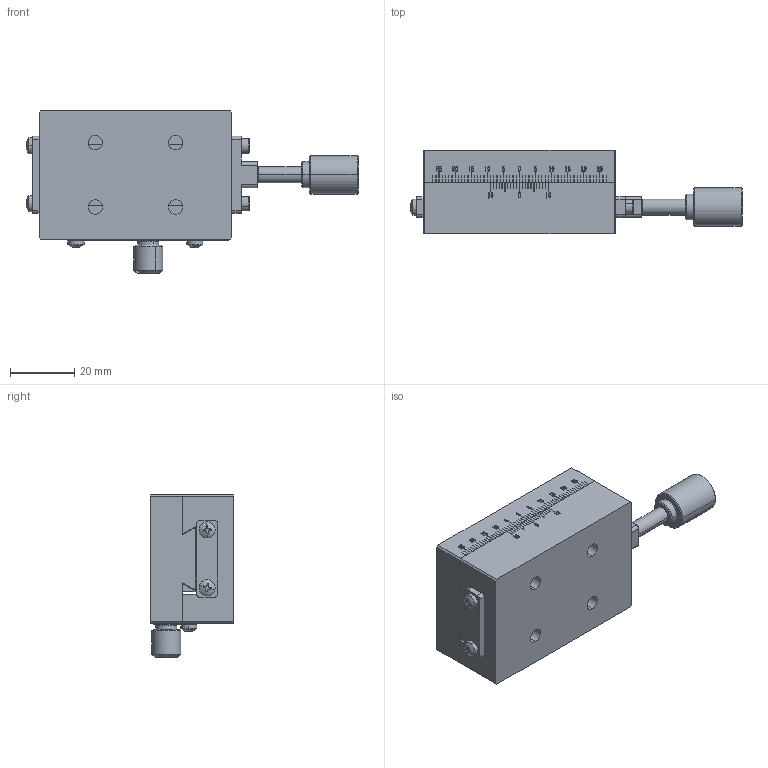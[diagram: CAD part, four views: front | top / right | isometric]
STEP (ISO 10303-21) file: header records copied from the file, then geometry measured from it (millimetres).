
FILE_DESCRIPTION (( 'STEP AP203' ), '1' );
FILE_NAME ('BLS60.STEP', '2024-02-26T05:45:54', ( 'China' ), ( 'Microsoft' ), 'SwSTEP 2.0', 'SolidWorks 2024', '' );
FILE_SCHEMA (( 'CONFIG_CONTROL_DESIGN' ));
Length unit declared in the file: millimetre
Products named in the file (1): BLS60
Bounding box: 103.37 x 26 x 50.7 mm (x, y, z)
Volume: 60400.7 mm3; surface area: 25617.5 mm2
Topology: 16 solids, 16 shells, 1339 faces, 3670 edges, 2388 vertices
Faces by surface type: plane 785, bspline 236, cylinder 226, cone 76, sphere 8, torus 8
Entity records: 54622 total; most frequent: CARTESIAN_POINT 23685, ORIENTED_EDGE 7256, DIRECTION 4995, EDGE_CURVE 3628, VERTEX_POINT 2388, VECTOR 1867, LINE 1867, AXIS2_PLACEMENT_3D 1564
